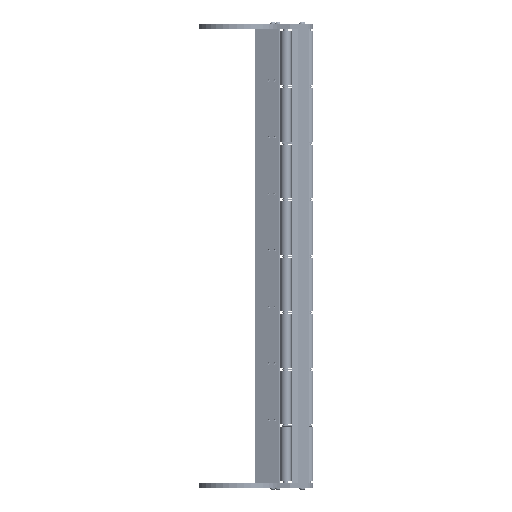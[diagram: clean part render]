
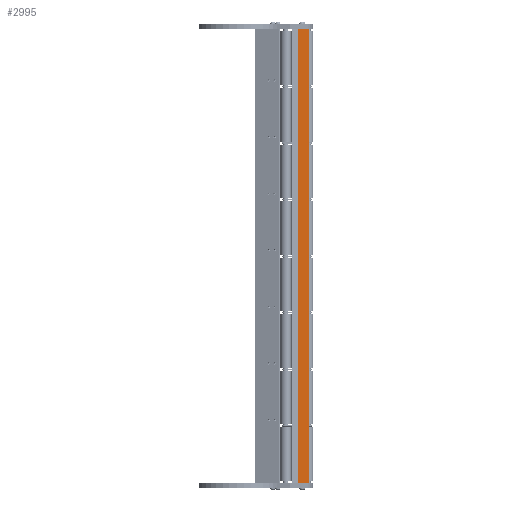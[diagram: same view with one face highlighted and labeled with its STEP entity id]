
A CAD part, front view. The second image highlights one B-rep face of the part: STEP entity #2995.
In plain terms, the highlighted planar face has unit normal (0.768, -0.641, 0) as drawn and (0, 1, 0) by its records, which use the part's own axes.
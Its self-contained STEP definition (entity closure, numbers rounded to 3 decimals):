
#117 = VERTEX_POINT ( 'NONE', #10564 ) ;
#752 = ORIENTED_EDGE ( 'NONE', *, *, #8306, .F. ) ;
#949 = ORIENTED_EDGE ( 'NONE', *, *, #9472, .T. ) ;
#1081 = CARTESIAN_POINT ( 'NONE',  ( 25., 13.9, 647. ) ) ;
#1767 = VECTOR ( 'NONE', #13365, 1000. ) ;
#1989 = CARTESIAN_POINT ( 'NONE',  ( 25., 13.9, 647. ) ) ;
#2144 = AXIS2_PLACEMENT_3D ( 'NONE', #1989, #3338, #9066 ) ;
#2995 = ADVANCED_FACE ( 'NONE', ( #13074 ), #4691, .F. ) ;
#3338 = DIRECTION ( 'NONE',  ( 0., -1., 0. ) ) ;
#3427 = VECTOR ( 'NONE', #3518, 1000. ) ;
#3518 = DIRECTION ( 'NONE',  ( 0., 0., -1. ) ) ;
#3660 = VERTEX_POINT ( 'NONE', #1081 ) ;
#3937 = EDGE_CURVE ( 'NONE', #117, #14289, #10338, .T. ) ;
#4691 = PLANE ( 'NONE',  #2144 ) ;
#4767 = VECTOR ( 'NONE', #16044, 1000. ) ;
#5171 = ORIENTED_EDGE ( 'NONE', *, *, #3937, .F. ) ;
#7124 = CARTESIAN_POINT ( 'NONE',  ( 25., 13.9, 0. ) ) ;
#7812 = CARTESIAN_POINT ( 'NONE',  ( 0., 13.9, 0. ) ) ;
#7824 = CARTESIAN_POINT ( 'NONE',  ( 25., 13.9, 647. ) ) ;
#8306 = EDGE_CURVE ( 'NONE', #3660, #117, #14895, .T. ) ;
#8371 = VECTOR ( 'NONE', #12662, 1000. ) ;
#8493 = LINE ( 'NONE', #7124, #8371 ) ;
#9066 = DIRECTION ( 'NONE',  ( 1., 0., 0. ) ) ;
#9151 = CARTESIAN_POINT ( 'NONE',  ( 0., 13.9, 647. ) ) ;
#9472 = EDGE_CURVE ( 'NONE', #3660, #11715, #10430, .T. ) ;
#9786 = CARTESIAN_POINT ( 'NONE',  ( 25., 13.9, 0. ) ) ;
#10338 = LINE ( 'NONE', #9151, #4767 ) ;
#10430 = LINE ( 'NONE', #12803, #3427 ) ;
#10564 = CARTESIAN_POINT ( 'NONE',  ( 0., 13.9, 647. ) ) ;
#11715 = VERTEX_POINT ( 'NONE', #9786 ) ;
#12662 = DIRECTION ( 'NONE',  ( -1., 0., 0. ) ) ;
#12803 = CARTESIAN_POINT ( 'NONE',  ( 25., 13.9, 647. ) ) ;
#13074 = FACE_OUTER_BOUND ( 'NONE', #17685, .T. ) ;
#13365 = DIRECTION ( 'NONE',  ( -1., 0., 0. ) ) ;
#14289 = VERTEX_POINT ( 'NONE', #7812 ) ;
#14428 = ORIENTED_EDGE ( 'NONE', *, *, #17048, .T. ) ;
#14895 = LINE ( 'NONE', #7824, #1767 ) ;
#16044 = DIRECTION ( 'NONE',  ( 0., 0., -1. ) ) ;
#17048 = EDGE_CURVE ( 'NONE', #11715, #14289, #8493, .T. ) ;
#17685 = EDGE_LOOP ( 'NONE', ( #14428, #5171, #752, #949 ) ) ;
